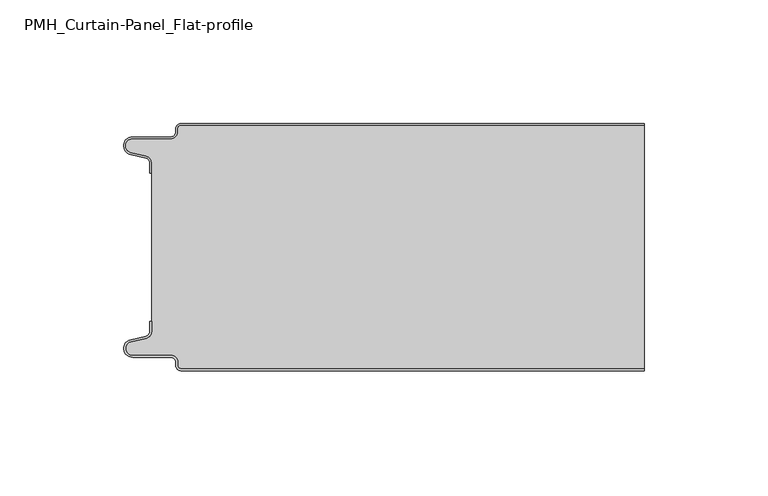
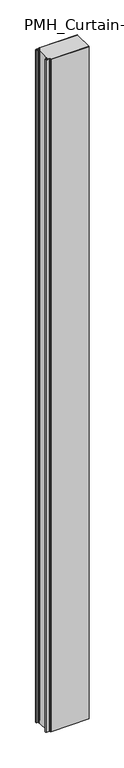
"""IFC4 building model written with IfcOpenShell, lengths in millimetres: plate geometry, PMH_Curtain-Panel_Flat-profile : ACH_PMH_Acoustic-Sectioning-Panel_100M."""

from ifc_helpers import new_model, si_unit, point, frame_2d, origin, origin_with_axes, place, context, project, spatial, polyline, circle_curve, trimmed, segment, composite_curve, outline, extrude, source, transform, mapped, element, save


def pmh_curtain_panel_flat_profile_6f3a8c2d(model_context):
    return source(origin(), model_context, "Body", "SweptSolid", [
        extrude(outline(composite_curve([segment(polyline([(-87.4, 0.8), (100.0, 0.8), (100.0, 0.0), (-87.4, 0.0)]), True, "CONTINUOUS"), segment(trimmed(circle_curve(frame_2d((-87.4, 2.0)), 2.0), [point((-87.4, 0.0))], [point((-89.4, 2.0))], False, "CARTESIAN"), True, "CONTINUOUS"), segment(polyline([(-89.4, 2.0), (-89.4, 3.4)]), True, "CONTINUOUS"), segment(trimmed(circle_curve(frame_2d((-91.4, 3.4)), 2.0), [point((-89.4, 3.4))], [point((-91.4, 5.4))], True, "CARTESIAN"), True, "CONTINUOUS"), segment(polyline([(-91.4, 5.4), (-106.9, 5.4)]), True, "CONTINUOUS"), segment(trimmed(circle_curve(frame_2d((-106.9, 9.0)), 3.6), [point((-106.9, 5.4))], [point((-107.7098239, 12.5077322))], False, "CARTESIAN"), True, "CONTINUOUS"), segment(polyline([(-107.7098239, 12.5077322), (-101.5500979, 13.929817)]), True, "CONTINUOUS"), segment(trimmed(circle_curve(frame_2d((-102.0, 15.878557)), 2.0), [point((-101.5500979, 13.929817))], [point((-100.0, 15.878557))], True, "CARTESIAN"), True, "CONTINUOUS"), segment(polyline([(-100.0, 15.878557), (-100.0, 20.0), (-99.2, 20.0), (-99.2, 15.878557)]), True, "CONTINUOUS"), segment(trimmed(circle_curve(frame_2d((-102.0, 15.878557)), 2.8), [point((-99.2, 15.878557))], [point((-101.370137, 13.1503208))], False, "CARTESIAN"), True, "CONTINUOUS"), segment(polyline([(-101.370137, 13.1503208), (-107.529863, 11.728236)]), True, "CONTINUOUS"), segment(trimmed(circle_curve(frame_2d((-106.9, 9.0)), 2.8), [point((-107.529863, 11.728236))], [point((-106.9, 6.2))], True, "CARTESIAN"), True, "CONTINUOUS"), segment(polyline([(-106.9, 6.2), (-91.4, 6.2)]), True, "CONTINUOUS"), segment(trimmed(circle_curve(frame_2d((-91.4, 3.4)), 2.8), [point((-91.4, 6.2))], [point((-88.6, 3.4))], False, "CARTESIAN"), True, "CONTINUOUS"), segment(polyline([(-88.6, 3.4), (-88.6, 2.0)]), True, "CONTINUOUS"), segment(trimmed(circle_curve(frame_2d((-87.4, 2.0)), 1.2), [point((-88.6, 2.0))], [point((-87.4, 0.8))], True, "CARTESIAN"), True, "CONTINUOUS")], self_intersect=False)), origin_with_axes(), (0.0, 0.0, 1.0), 3500.0),
        extrude(outline(composite_curve([segment(trimmed(circle_curve(frame_2d((-102.0, 84.1214426)), 2.8), [point((-99.2, 84.1214426))], [point((-101.370137, 86.8496788))], True, "CARTESIAN"), True, "CONTINUOUS"), segment(polyline([(-101.370137, 86.8496788), (-107.5298631, 88.2717638)]), True, "CONTINUOUS"), segment(trimmed(circle_curve(frame_2d((-106.9, 91.0)), 2.8), [point((-107.5298631, 88.2717638))], [point((-106.9, 93.8))], False, "CARTESIAN"), True, "CONTINUOUS"), segment(polyline([(-106.9, 93.8), (-91.4000001, 93.8)]), True, "CONTINUOUS"), segment(trimmed(circle_curve(frame_2d((-91.4000001, 96.6)), 2.8), [point((-91.4000001, 93.8))], [point((-88.6000001, 96.6))], True, "CARTESIAN"), True, "CONTINUOUS"), segment(polyline([(-88.6000001, 96.6), (-88.6000001, 98.0)]), True, "CONTINUOUS"), segment(trimmed(circle_curve(frame_2d((-87.4000001, 98.0)), 1.2), [point((-88.6000001, 98.0))], [point((-87.4000001, 99.2))], False, "CARTESIAN"), True, "CONTINUOUS"), segment(polyline([(-87.4000001, 99.2), (100.0, 99.2), (100.0, 0.8), (-87.4000001, 0.8)]), True, "CONTINUOUS"), segment(trimmed(circle_curve(frame_2d((-87.4000001, 2.0)), 1.2), [point((-87.4000001, 0.8))], [point((-88.6000001, 2.0))], False, "CARTESIAN"), True, "CONTINUOUS"), segment(polyline([(-88.6000001, 2.0), (-88.6000001, 3.4)]), True, "CONTINUOUS"), segment(trimmed(circle_curve(frame_2d((-91.4000001, 3.4)), 2.8), [point((-88.6000001, 3.4))], [point((-91.4000001, 6.2))], True, "CARTESIAN"), True, "CONTINUOUS"), segment(polyline([(-91.4000001, 6.2), (-106.9, 6.2)]), True, "CONTINUOUS"), segment(trimmed(circle_curve(frame_2d((-106.9, 9.0)), 2.8), [point((-106.9, 6.2))], [point((-107.5298631, 11.7282362))], False, "CARTESIAN"), True, "CONTINUOUS"), segment(polyline([(-107.5298631, 11.7282362), (-101.370137, 13.1503212)]), True, "CONTINUOUS"), segment(trimmed(circle_curve(frame_2d((-102.0, 15.8785573)), 2.8), [point((-101.370137, 13.1503212))], [point((-99.2, 15.8785573))], True, "CARTESIAN"), True, "CONTINUOUS"), segment(polyline([(-99.2, 15.8785573), (-99.2, 84.1214426)]), True, "CONTINUOUS")], self_intersect=False)), origin_with_axes(), (0.0, 0.0, 1.0), 3500.0),
        extrude(outline(composite_curve([segment(polyline([(-87.4, 100.0), (100.0, 100.0), (100.0, 99.2), (-87.4, 99.2)]), True, "CONTINUOUS"), segment(trimmed(circle_curve(frame_2d((-87.4, 98.0)), 1.2), [point((-87.4, 99.2))], [point((-88.6, 98.0))], True, "CARTESIAN"), True, "CONTINUOUS"), segment(polyline([(-88.6, 98.0), (-88.6, 96.6)]), True, "CONTINUOUS"), segment(trimmed(circle_curve(frame_2d((-91.4, 96.6)), 2.8), [point((-88.6, 96.6))], [point((-91.4, 93.8))], False, "CARTESIAN"), True, "CONTINUOUS"), segment(polyline([(-91.4, 93.8), (-106.9, 93.8)]), True, "CONTINUOUS"), segment(trimmed(circle_curve(frame_2d((-106.9, 91.0)), 2.8), [point((-106.9, 93.8))], [point((-107.529863, 88.2717638))], True, "CARTESIAN"), True, "CONTINUOUS"), segment(polyline([(-107.529863, 88.2717638), (-101.370137, 86.849679)]), True, "CONTINUOUS"), segment(trimmed(circle_curve(frame_2d((-102.0, 84.121443)), 2.8), [point((-101.370137, 86.849679))], [point((-99.2, 84.121443))], False, "CARTESIAN"), True, "CONTINUOUS"), segment(polyline([(-99.2, 84.121443), (-99.2, 80.0), (-100.0, 80.0), (-100.0, 84.121443)]), True, "CONTINUOUS"), segment(trimmed(circle_curve(frame_2d((-102.0, 84.121443)), 2.0), [point((-100.0, 84.121443))], [point((-101.5500978, 86.0701831))], True, "CARTESIAN"), True, "CONTINUOUS"), segment(polyline([(-101.5500978, 86.0701831), (-107.7098239, 87.492268)]), True, "CONTINUOUS"), segment(trimmed(circle_curve(frame_2d((-106.9, 91.0)), 3.6), [point((-107.7098239, 87.492268))], [point((-106.9, 94.6))], False, "CARTESIAN"), True, "CONTINUOUS"), segment(polyline([(-106.9, 94.6), (-91.4, 94.6)]), True, "CONTINUOUS"), segment(trimmed(circle_curve(frame_2d((-91.4, 96.6)), 2.0), [point((-91.4, 94.6))], [point((-89.4, 96.6))], True, "CARTESIAN"), True, "CONTINUOUS"), segment(polyline([(-89.4, 96.6), (-89.4, 98.0)]), True, "CONTINUOUS"), segment(trimmed(circle_curve(frame_2d((-87.4, 98.0)), 2.0), [point((-89.4, 98.0))], [point((-87.4, 100.0))], False, "CARTESIAN"), True, "CONTINUOUS")], self_intersect=False)), origin_with_axes(), (0.0, 0.0, 1.0), 3500.0),
    ])


if __name__ == "__main__":
    model = new_model("IFC4")
    model_context = context("Model", 3, world=origin())
    ifc_project = project(units=[si_unit("LENGTHUNIT", "METRE", prefix="MILLI")], contexts=[model_context])
    site = spatial("IfcSite", under=ifc_project)
    building = spatial("IfcBuilding", under=site)
    placement = place(None, origin())
    pmh_curtain_panel_flat_profile_shape = pmh_curtain_panel_flat_profile_6f3a8c2d(model_context)
    element("IfcPlate", 1, ObjectType="PMH_Curtain-Panel_Flat-profile : ACH_PMH_Acoustic-Sectioning-Panel_100M", at=placement, inside=building, context=model_context, shape_type="MappedRepresentation", body=[
        mapped(pmh_curtain_panel_flat_profile_shape, transform((0.0, 0.0, 0.0), x_axis=(1.0, 0.0, 0.0), y_axis=(0.0, 1.0, 0.0), z_axis=(0.0, 0.0, 1.0))),
    ])
    save(model, "model.ifc")
